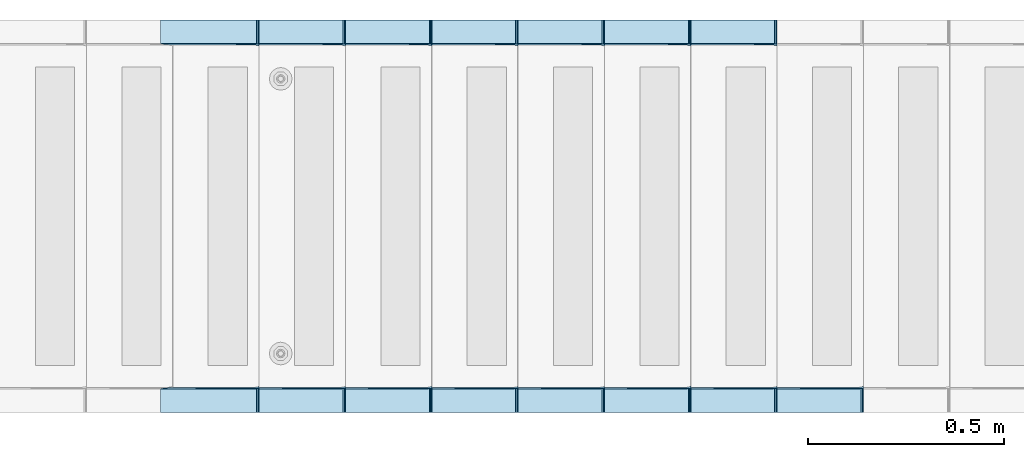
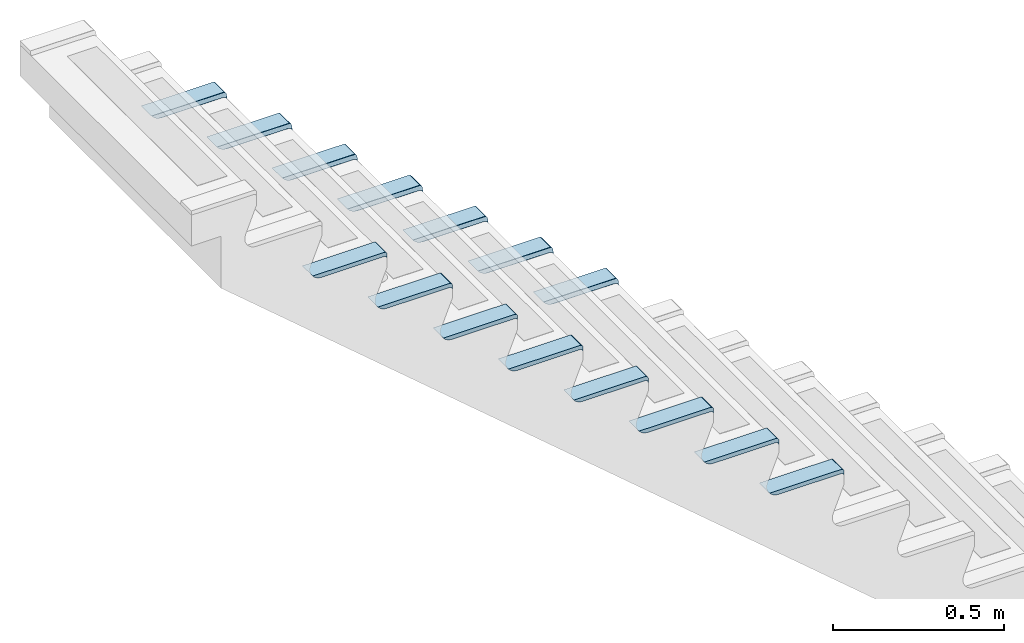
# One storey, part 3 of 4: 15 slabs, 1 element without a shape of its own.
"""IFC2X3 building model written with IfcOpenShell, lengths in millimetres."""

from ifc_helpers import new_model, si_unit, frame, origin_with_axes, place, context, subcontext, project, spatial, faceted_brep, material, type_object, element, aggregate, save


model = new_model("IFC2X3")

# Units and contexts
model_context = context("Model", 3, precision=1e-05, world=origin_with_axes())
body_context = subcontext(model_context, "Body", "Model", "MODEL_VIEW")
ifc_project = project(units=[si_unit("LENGTHUNIT", "METRE", prefix="MILLI"), si_unit("AREAUNIT", "SQUARE_METRE"), si_unit("VOLUMEUNIT", "CUBIC_METRE"), si_unit("MASSUNIT", "GRAM", prefix="KILO"), si_unit("TIMEUNIT", "SECOND"), si_unit("PLANEANGLEUNIT", "RADIAN"), si_unit("SOLIDANGLEUNIT", "STERADIAN"), si_unit("THERMODYNAMICTEMPERATUREUNIT", "DEGREE_CELSIUS"), si_unit("LUMINOUSINTENSITYUNIT", "LUMEN")], contexts=[model_context])

# Site, building, storey
site_placement = place(None, origin_with_axes())
site = spatial("IfcSite", under=ifc_project, at=site_placement, Name="Undefined", CompositionType="ELEMENT")
building_placement = place(site_placement, origin_with_axes())
building = spatial("IfcBuilding", under=site, at=building_placement, Name="Undefined", CompositionType="ELEMENT")
storey_placement = place(building_placement, origin_with_axes())
storey = spatial("IfcBuildingStorey", under=building, at=storey_placement, Name="Undefined", CompositionType="ELEMENT", Elevation=0.0)

# Assembly, slabs
assembly_placement = place(storey_placement, origin_with_axes())
assembly = element("IfcElementAssembly", 1, at=assembly_placement, inside=storey, Name="Trap met bomen", AssemblyPlace="NOTDEFINED", PredefinedType="REINFORCEMENT_UNIT")
ifc_material = material(Name="CONCRETE/C55/67")
slab_type = type_object("IfcSlabType", Name="60*25", PredefinedType="NOTDEFINED")
slab_1_placement = place(assembly_placement, frame((5140.0, 11530.0, 2640.0), z_axis=(0.0, -1.0, 0.0), x_axis=(-1.0, 0.0, 0.0)))
slab_1 = element("IfcSlab", 2, at=slab_1_placement, type_object=slab_type, material=ifc_material, Name="Ridge", ObjectType="60*25", PredefinedType="FLOOR", context=body_context, shape_type="Brep", body=[
    faceted_brep([(10.0, 0.0, -30.0), (6.17316567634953, 0.761204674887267, -30.6698729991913), (251.224989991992, 0.0, -30.0), (2.92893218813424, 2.9289321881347, -31.3397459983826), (0.761204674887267, 6.17316567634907, -32.0096189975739), (244.894224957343, 6.30938459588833, -31.648201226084), (0.0, 10.0, -32.6794919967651), (237.320508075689, 11.0555127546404, -32.467074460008), (228.881989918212, 14.0014135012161, -33.2859476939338), (220.0, 15.0, -34.0192379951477), (10.0, 15.0, -34.0192379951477), (6.17316567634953, 15.7612046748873, -34.689110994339), (2.92893218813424, 17.9289321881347, -35.3589839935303), (0.761204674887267, 21.1731656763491, -36.0288569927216), (0.0, 10.0, 30.0), (0.0, 25.0, 30.0), (0.0, 25.0, -36.6987299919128), (0.761204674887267, 21.1731656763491, 30.0), (2.92893218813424, 17.9289321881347, 30.0), (6.17316567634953, 15.7612046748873, 30.0), (10.0, 15.0, 30.0), (220.0, 15.0, 30.0), (228.881989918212, 14.0014135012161, 30.0), (237.320508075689, 11.0555127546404, 30.0), (244.894224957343, 6.30938459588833, 30.0), (251.224989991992, 0.0, 30.0), (10.0, 0.0, 30.0), (6.17316567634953, 0.761204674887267, 30.0), (2.92893218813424, 2.9289321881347, 30.0), (0.761204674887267, 6.17316567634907, 30.0)], [[[0, 1, 2]], [[3, 2, 1]], [[4, 2, 3]], [[5, 2, 4]], [[6, 5, 4]], [[7, 5, 6]], [[8, 7, 6]], [[9, 8, 6]], [[10, 9, 6]], [[11, 10, 6]], [[12, 11, 6]], [[13, 12, 6]], [[14, 15, 16, 6]], [[15, 17, 13, 16]], [[17, 18, 12, 13]], [[18, 19, 11, 12]], [[19, 20, 10, 11]], [[20, 21, 9, 10]], [[21, 22, 8, 9]], [[22, 23, 7, 8]], [[23, 24, 5, 7]], [[24, 25, 2, 5]], [[25, 26, 0, 2]], [[26, 27, 1, 0]], [[27, 28, 3, 1]], [[28, 29, 4, 3]], [[29, 14, 6, 4]], [[16, 13, 6]], [[29, 28, 27, 26, 25, 24, 23, 22, 21, 20, 19, 18, 17, 15, 14]]]),
])
slab_2_placement = place(assembly_placement, frame((5140.0, 12470.0, 2640.0), z_axis=(0.0, -1.0, 0.0), x_axis=(-1.0, 0.0, 0.0)))
slab_2 = element("IfcSlab", 3, at=slab_2_placement, type_object=slab_type, material=ifc_material, Name="Ridge", ObjectType="60*25", PredefinedType="FLOOR", context=body_context, shape_type="Brep", body=[
    faceted_brep([(220.0, 15.0, 34.0192379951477), (10.0, 15.0, 34.0192379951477), (228.881989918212, 14.0014135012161, 33.2859476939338), (0.0, 25.0, 36.6987299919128), (0.0, 10.0, 32.6794919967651), (0.761204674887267, 21.1731656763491, 36.0288569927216), (2.92893218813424, 17.9289321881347, 35.3589839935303), (6.17316567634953, 15.7612046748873, 34.689110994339), (237.320508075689, 11.0555127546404, 32.467074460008), (244.894224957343, 6.30938459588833, 31.648201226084), (2.92893218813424, 2.9289321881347, 31.3397459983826), (0.761204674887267, 6.17316567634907, 32.0096189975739), (6.17316567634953, 0.761204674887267, 30.6698729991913), (251.224989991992, 0.0, 30.0), (10.0, 0.0, 30.0), (0.0, 25.0, -30.0), (0.0, 10.0, -30.0), (0.761204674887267, 21.1731656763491, -30.0), (2.92893218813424, 17.9289321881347, -30.0), (6.17316567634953, 15.7612046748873, -30.0), (10.0, 15.0, -30.0), (220.0, 15.0, -30.0), (228.881989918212, 14.0014135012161, -30.0), (237.320508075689, 11.0555127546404, -30.0), (244.894224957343, 6.30938459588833, -30.0), (251.224989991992, 0.0, -30.0), (10.0, 0.0, -30.0), (6.17316567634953, 0.761204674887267, -30.0), (2.92893218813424, 2.9289321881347, -30.0), (0.761204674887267, 6.17316567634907, -30.0)], [[[0, 1, 2]], [[3, 4, 5]], [[6, 5, 4]], [[7, 6, 4]], [[7, 4, 1]], [[8, 2, 1]], [[8, 1, 4]], [[9, 8, 4]], [[10, 9, 11]], [[12, 9, 10]], [[13, 9, 12]], [[14, 13, 12]], [[4, 3, 15, 16]], [[3, 5, 17, 15]], [[5, 6, 18, 17]], [[6, 7, 19, 18]], [[7, 1, 20, 19]], [[1, 0, 21, 20]], [[0, 2, 22, 21]], [[2, 8, 23, 22]], [[8, 9, 24, 23]], [[9, 13, 25, 24]], [[13, 14, 26, 25]], [[14, 12, 27, 26]], [[12, 10, 28, 27]], [[10, 11, 29, 28]], [[11, 4, 16, 29]], [[17, 18, 19, 20, 21, 22, 23, 24, 25, 26, 27, 28, 29, 16, 15]], [[11, 9, 4]]]),
])
slab_3_placement = place(assembly_placement, frame((5360.0, 11530.0, 2452.5), z_axis=(0.0, -1.0, 0.0), x_axis=(-1.0, 0.0, 0.0)))
slab_3 = element("IfcSlab", 4, at=slab_3_placement, type_object=slab_type, material=ifc_material, Name="Ridge", ObjectType="60*25", PredefinedType="FLOOR", context=body_context, shape_type="Brep", body=[
    faceted_brep([(10.0, 0.0, -30.0), (6.17316567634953, 0.761204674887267, -30.6698729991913), (251.224989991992, 0.0, -30.0), (2.92893218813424, 2.9289321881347, -31.3397459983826), (0.761204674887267, 6.17316567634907, -32.0096189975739), (244.894224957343, 6.30938459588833, -31.648201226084), (0.0, 10.0, -32.6794919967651), (237.320508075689, 11.0555127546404, -32.467074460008), (228.881989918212, 14.0014135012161, -33.2859476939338), (220.0, 15.0, -34.0192379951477), (10.0, 15.0, -34.0192379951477), (6.17316567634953, 15.7612046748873, -34.689110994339), (2.92893218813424, 17.9289321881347, -35.3589839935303), (0.761204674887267, 21.1731656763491, -36.0288569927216), (0.0, 10.0, 30.0), (0.0, 25.0, 30.0), (0.0, 25.0, -36.6987299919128), (0.761204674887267, 21.1731656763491, 30.0), (2.92893218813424, 17.9289321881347, 30.0), (6.17316567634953, 15.7612046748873, 30.0), (10.0, 15.0, 30.0), (220.0, 15.0, 30.0), (228.881989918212, 14.0014135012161, 30.0), (237.320508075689, 11.0555127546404, 30.0), (244.894224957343, 6.30938459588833, 30.0), (251.224989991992, 0.0, 30.0), (10.0, 0.0, 30.0), (6.17316567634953, 0.761204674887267, 30.0), (2.92893218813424, 2.9289321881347, 30.0), (0.761204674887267, 6.17316567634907, 30.0)], [[[0, 1, 2]], [[3, 2, 1]], [[4, 2, 3]], [[5, 2, 4]], [[6, 5, 4]], [[7, 5, 6]], [[8, 7, 6]], [[9, 8, 6]], [[10, 9, 6]], [[11, 10, 6]], [[12, 11, 6]], [[13, 12, 6]], [[14, 15, 16, 6]], [[15, 17, 13, 16]], [[17, 18, 12, 13]], [[18, 19, 11, 12]], [[19, 20, 10, 11]], [[20, 21, 9, 10]], [[21, 22, 8, 9]], [[22, 23, 7, 8]], [[23, 24, 5, 7]], [[24, 25, 2, 5]], [[25, 26, 0, 2]], [[26, 27, 1, 0]], [[27, 28, 3, 1]], [[28, 29, 4, 3]], [[29, 14, 6, 4]], [[16, 13, 6]], [[29, 28, 27, 26, 25, 24, 23, 22, 21, 20, 19, 18, 17, 15, 14]]]),
])
slab_4_placement = place(assembly_placement, frame((5360.0, 12470.0, 2452.5), z_axis=(0.0, -1.0, 0.0), x_axis=(-1.0, 0.0, 0.0)))
slab_4 = element("IfcSlab", 5, at=slab_4_placement, type_object=slab_type, material=ifc_material, Name="Ridge", ObjectType="60*25", PredefinedType="FLOOR", context=body_context, shape_type="Brep", body=[
    faceted_brep([(220.0, 15.0, 34.0192379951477), (10.0, 15.0, 34.0192379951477), (228.881989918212, 14.0014135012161, 33.2859476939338), (0.0, 25.0, 36.6987299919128), (0.0, 10.0, 32.6794919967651), (0.761204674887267, 21.1731656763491, 36.0288569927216), (2.92893218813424, 17.9289321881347, 35.3589839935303), (6.17316567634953, 15.7612046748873, 34.689110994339), (237.320508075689, 11.0555127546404, 32.467074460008), (244.894224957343, 6.30938459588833, 31.648201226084), (2.92893218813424, 2.9289321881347, 31.3397459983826), (0.761204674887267, 6.17316567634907, 32.0096189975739), (6.17316567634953, 0.761204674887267, 30.6698729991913), (251.224989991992, 0.0, 30.0), (10.0, 0.0, 30.0), (0.0, 25.0, -30.0), (0.0, 10.0, -30.0), (0.761204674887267, 21.1731656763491, -30.0), (2.92893218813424, 17.9289321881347, -30.0), (6.17316567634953, 15.7612046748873, -30.0), (10.0, 15.0, -30.0), (220.0, 15.0, -30.0), (228.881989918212, 14.0014135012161, -30.0), (237.320508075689, 11.0555127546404, -30.0), (244.894224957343, 6.30938459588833, -30.0), (251.224989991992, 0.0, -30.0), (10.0, 0.0, -30.0), (6.17316567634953, 0.761204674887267, -30.0), (2.92893218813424, 2.9289321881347, -30.0), (0.761204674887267, 6.17316567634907, -30.0)], [[[0, 1, 2]], [[3, 4, 5]], [[6, 5, 4]], [[7, 6, 4]], [[7, 4, 1]], [[8, 2, 1]], [[8, 1, 4]], [[9, 8, 4]], [[10, 9, 11]], [[12, 9, 10]], [[13, 9, 12]], [[14, 13, 12]], [[4, 3, 15, 16]], [[3, 5, 17, 15]], [[5, 6, 18, 17]], [[6, 7, 19, 18]], [[7, 1, 20, 19]], [[1, 0, 21, 20]], [[0, 2, 22, 21]], [[2, 8, 23, 22]], [[8, 9, 24, 23]], [[9, 13, 25, 24]], [[13, 14, 26, 25]], [[14, 12, 27, 26]], [[12, 10, 28, 27]], [[10, 11, 29, 28]], [[11, 4, 16, 29]], [[17, 18, 19, 20, 21, 22, 23, 24, 25, 26, 27, 28, 29, 16, 15]], [[11, 9, 4]]]),
])
slab_5_placement = place(assembly_placement, frame((5580.0, 11530.0, 2265.0), z_axis=(0.0, -1.0, 0.0), x_axis=(-1.0, 0.0, 0.0)))
slab_5 = element("IfcSlab", 6, at=slab_5_placement, type_object=slab_type, material=ifc_material, Name="Ridge", ObjectType="60*25", PredefinedType="FLOOR", context=body_context, shape_type="Brep", body=[
    faceted_brep([(10.0, 0.0, -30.0), (6.17316567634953, 0.761204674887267, -30.6698729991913), (251.224989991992, 0.0, -30.0), (2.92893218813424, 2.9289321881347, -31.3397459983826), (0.761204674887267, 6.17316567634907, -32.0096189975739), (244.894224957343, 6.30938459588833, -31.648201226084), (0.0, 10.0, -32.6794919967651), (237.320508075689, 11.0555127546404, -32.467074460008), (228.881989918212, 14.0014135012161, -33.2859476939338), (220.0, 15.0, -34.0192379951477), (10.0, 15.0, -34.0192379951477), (6.17316567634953, 15.7612046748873, -34.689110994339), (2.92893218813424, 17.9289321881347, -35.3589839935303), (0.761204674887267, 21.1731656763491, -36.0288569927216), (0.0, 10.0, 30.0), (0.0, 25.0, 30.0), (0.0, 25.0, -36.6987299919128), (0.761204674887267, 21.1731656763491, 30.0), (2.92893218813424, 17.9289321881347, 30.0), (6.17316567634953, 15.7612046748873, 30.0), (10.0, 15.0, 30.0), (220.0, 15.0, 30.0), (228.881989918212, 14.0014135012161, 30.0), (237.320508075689, 11.0555127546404, 30.0), (244.894224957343, 6.30938459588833, 30.0), (251.224989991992, 0.0, 30.0), (10.0, 0.0, 30.0), (6.17316567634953, 0.761204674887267, 30.0), (2.92893218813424, 2.9289321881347, 30.0), (0.761204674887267, 6.17316567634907, 30.0)], [[[0, 1, 2]], [[3, 2, 1]], [[4, 2, 3]], [[5, 2, 4]], [[6, 5, 4]], [[7, 5, 6]], [[8, 7, 6]], [[9, 8, 6]], [[10, 9, 6]], [[11, 10, 6]], [[12, 11, 6]], [[13, 12, 6]], [[14, 15, 16, 6]], [[15, 17, 13, 16]], [[17, 18, 12, 13]], [[18, 19, 11, 12]], [[19, 20, 10, 11]], [[20, 21, 9, 10]], [[21, 22, 8, 9]], [[22, 23, 7, 8]], [[23, 24, 5, 7]], [[24, 25, 2, 5]], [[25, 26, 0, 2]], [[26, 27, 1, 0]], [[27, 28, 3, 1]], [[28, 29, 4, 3]], [[29, 14, 6, 4]], [[16, 13, 6]], [[29, 28, 27, 26, 25, 24, 23, 22, 21, 20, 19, 18, 17, 15, 14]]]),
])
slab_6_placement = place(assembly_placement, frame((5580.0, 12470.0, 2265.0), z_axis=(0.0, -1.0, 0.0), x_axis=(-1.0, 0.0, 0.0)))
slab_6 = element("IfcSlab", 7, at=slab_6_placement, type_object=slab_type, material=ifc_material, Name="Ridge", ObjectType="60*25", PredefinedType="FLOOR", context=body_context, shape_type="Brep", body=[
    faceted_brep([(220.0, 15.0, 34.0192379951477), (10.0, 15.0, 34.0192379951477), (228.881989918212, 14.0014135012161, 33.2859476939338), (0.0, 25.0, 36.6987299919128), (0.0, 10.0, 32.6794919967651), (0.761204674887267, 21.1731656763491, 36.0288569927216), (2.92893218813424, 17.9289321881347, 35.3589839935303), (6.17316567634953, 15.7612046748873, 34.689110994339), (237.320508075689, 11.0555127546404, 32.467074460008), (244.894224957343, 6.30938459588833, 31.648201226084), (2.92893218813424, 2.9289321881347, 31.3397459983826), (0.761204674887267, 6.17316567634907, 32.0096189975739), (6.17316567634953, 0.761204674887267, 30.6698729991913), (251.224989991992, 0.0, 30.0), (10.0, 0.0, 30.0), (0.0, 25.0, -30.0), (0.0, 10.0, -30.0), (0.761204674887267, 21.1731656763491, -30.0), (2.92893218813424, 17.9289321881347, -30.0), (6.17316567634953, 15.7612046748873, -30.0), (10.0, 15.0, -30.0), (220.0, 15.0, -30.0), (228.881989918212, 14.0014135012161, -30.0), (237.320508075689, 11.0555127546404, -30.0), (244.894224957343, 6.30938459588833, -30.0), (251.224989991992, 0.0, -30.0), (10.0, 0.0, -30.0), (6.17316567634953, 0.761204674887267, -30.0), (2.92893218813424, 2.9289321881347, -30.0), (0.761204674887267, 6.17316567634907, -30.0)], [[[0, 1, 2]], [[3, 4, 5]], [[6, 5, 4]], [[7, 6, 4]], [[7, 4, 1]], [[8, 2, 1]], [[8, 1, 4]], [[9, 8, 4]], [[10, 9, 11]], [[12, 9, 10]], [[13, 9, 12]], [[14, 13, 12]], [[4, 3, 15, 16]], [[3, 5, 17, 15]], [[5, 6, 18, 17]], [[6, 7, 19, 18]], [[7, 1, 20, 19]], [[1, 0, 21, 20]], [[0, 2, 22, 21]], [[2, 8, 23, 22]], [[8, 9, 24, 23]], [[9, 13, 25, 24]], [[13, 14, 26, 25]], [[14, 12, 27, 26]], [[12, 10, 28, 27]], [[10, 11, 29, 28]], [[11, 4, 16, 29]], [[17, 18, 19, 20, 21, 22, 23, 24, 25, 26, 27, 28, 29, 16, 15]], [[11, 9, 4]]]),
])
slab_7_placement = place(assembly_placement, frame((5800.0, 11530.0, 2077.5), z_axis=(0.0, -1.0, 0.0), x_axis=(-1.0, 0.0, 0.0)))
slab_7 = element("IfcSlab", 8, at=slab_7_placement, type_object=slab_type, material=ifc_material, Name="Ridge", ObjectType="60*25", PredefinedType="FLOOR", context=body_context, shape_type="Brep", body=[
    faceted_brep([(10.0, 0.0, -30.0), (6.17316567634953, 0.761204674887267, -30.6698729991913), (251.224989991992, 0.0, -30.0), (2.92893218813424, 2.9289321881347, -31.3397459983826), (0.761204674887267, 6.17316567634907, -32.0096189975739), (244.894224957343, 6.30938459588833, -31.648201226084), (0.0, 10.0, -32.6794919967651), (237.320508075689, 11.0555127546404, -32.467074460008), (228.881989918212, 14.0014135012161, -33.2859476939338), (220.0, 15.0, -34.0192379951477), (10.0, 15.0, -34.0192379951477), (6.17316567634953, 15.7612046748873, -34.689110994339), (2.92893218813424, 17.9289321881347, -35.3589839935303), (0.761204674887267, 21.1731656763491, -36.0288569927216), (0.0, 10.0, 30.0), (0.0, 25.0, 30.0), (0.0, 25.0, -36.6987299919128), (0.761204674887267, 21.1731656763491, 30.0), (2.92893218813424, 17.9289321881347, 30.0), (6.17316567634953, 15.7612046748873, 30.0), (10.0, 15.0, 30.0), (220.0, 15.0, 30.0), (228.881989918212, 14.0014135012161, 30.0), (237.320508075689, 11.0555127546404, 30.0), (244.894224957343, 6.30938459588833, 30.0), (251.224989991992, 0.0, 30.0), (10.0, 0.0, 30.0), (6.17316567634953, 0.761204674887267, 30.0), (2.92893218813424, 2.9289321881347, 30.0), (0.761204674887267, 6.17316567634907, 30.0)], [[[0, 1, 2]], [[3, 2, 1]], [[4, 2, 3]], [[5, 2, 4]], [[6, 5, 4]], [[7, 5, 6]], [[8, 7, 6]], [[9, 8, 6]], [[10, 9, 6]], [[11, 10, 6]], [[12, 11, 6]], [[13, 12, 6]], [[14, 15, 16, 6]], [[15, 17, 13, 16]], [[17, 18, 12, 13]], [[18, 19, 11, 12]], [[19, 20, 10, 11]], [[20, 21, 9, 10]], [[21, 22, 8, 9]], [[22, 23, 7, 8]], [[23, 24, 5, 7]], [[24, 25, 2, 5]], [[25, 26, 0, 2]], [[26, 27, 1, 0]], [[27, 28, 3, 1]], [[28, 29, 4, 3]], [[29, 14, 6, 4]], [[16, 13, 6]], [[29, 28, 27, 26, 25, 24, 23, 22, 21, 20, 19, 18, 17, 15, 14]]]),
])
slab_8_placement = place(assembly_placement, frame((5800.0, 12470.0, 2077.5), z_axis=(0.0, -1.0, 0.0), x_axis=(-1.0, 0.0, 0.0)))
slab_8 = element("IfcSlab", 9, at=slab_8_placement, type_object=slab_type, material=ifc_material, Name="Ridge", ObjectType="60*25", PredefinedType="FLOOR", context=body_context, shape_type="Brep", body=[
    faceted_brep([(220.0, 15.0, 34.0192379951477), (10.0, 15.0, 34.0192379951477), (228.881989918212, 14.0014135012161, 33.2859476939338), (0.0, 25.0, 36.6987299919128), (0.0, 10.0, 32.6794919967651), (0.761204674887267, 21.1731656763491, 36.0288569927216), (2.92893218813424, 17.9289321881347, 35.3589839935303), (6.17316567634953, 15.7612046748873, 34.689110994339), (237.320508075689, 11.0555127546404, 32.467074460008), (244.894224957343, 6.30938459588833, 31.648201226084), (2.92893218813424, 2.9289321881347, 31.3397459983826), (0.761204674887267, 6.17316567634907, 32.0096189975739), (6.17316567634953, 0.761204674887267, 30.6698729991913), (251.224989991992, 0.0, 30.0), (10.0, 0.0, 30.0), (0.0, 25.0, -30.0), (0.0, 10.0, -30.0), (0.761204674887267, 21.1731656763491, -30.0), (2.92893218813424, 17.9289321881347, -30.0), (6.17316567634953, 15.7612046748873, -30.0), (10.0, 15.0, -30.0), (220.0, 15.0, -30.0), (228.881989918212, 14.0014135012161, -30.0), (237.320508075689, 11.0555127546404, -30.0), (244.894224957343, 6.30938459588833, -30.0), (251.224989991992, 0.0, -30.0), (10.0, 0.0, -30.0), (6.17316567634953, 0.761204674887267, -30.0), (2.92893218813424, 2.9289321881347, -30.0), (0.761204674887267, 6.17316567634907, -30.0)], [[[0, 1, 2]], [[3, 4, 5]], [[6, 5, 4]], [[7, 6, 4]], [[7, 4, 1]], [[8, 2, 1]], [[8, 1, 4]], [[9, 8, 4]], [[10, 9, 11]], [[12, 9, 10]], [[13, 9, 12]], [[14, 13, 12]], [[4, 3, 15, 16]], [[3, 5, 17, 15]], [[5, 6, 18, 17]], [[6, 7, 19, 18]], [[7, 1, 20, 19]], [[1, 0, 21, 20]], [[0, 2, 22, 21]], [[2, 8, 23, 22]], [[8, 9, 24, 23]], [[9, 13, 25, 24]], [[13, 14, 26, 25]], [[14, 12, 27, 26]], [[12, 10, 28, 27]], [[10, 11, 29, 28]], [[11, 4, 16, 29]], [[17, 18, 19, 20, 21, 22, 23, 24, 25, 26, 27, 28, 29, 16, 15]], [[11, 9, 4]]]),
])
slab_9_placement = place(assembly_placement, frame((6020.0, 11530.0, 1890.0), z_axis=(0.0, -1.0, 0.0), x_axis=(-1.0, 0.0, 0.0)))
slab_9 = element("IfcSlab", 10, at=slab_9_placement, type_object=slab_type, material=ifc_material, Name="Ridge", ObjectType="60*25", PredefinedType="FLOOR", context=body_context, shape_type="Brep", body=[
    faceted_brep([(10.0, 0.0, -30.0), (6.17316567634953, 0.761204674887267, -30.6698729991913), (251.224989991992, 0.0, -30.0), (2.92893218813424, 2.9289321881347, -31.3397459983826), (0.761204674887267, 6.17316567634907, -32.0096189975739), (244.894224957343, 6.30938459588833, -31.648201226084), (0.0, 10.0, -32.6794919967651), (237.320508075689, 11.0555127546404, -32.467074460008), (228.881989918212, 14.0014135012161, -33.2859476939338), (220.0, 15.0, -34.0192379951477), (10.0, 15.0, -34.0192379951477), (6.17316567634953, 15.7612046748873, -34.689110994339), (2.92893218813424, 17.9289321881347, -35.3589839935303), (0.761204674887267, 21.1731656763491, -36.0288569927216), (0.0, 10.0, 30.0), (0.0, 25.0, 30.0), (0.0, 25.0, -36.6987299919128), (0.761204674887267, 21.1731656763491, 30.0), (2.92893218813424, 17.9289321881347, 30.0), (6.17316567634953, 15.7612046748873, 30.0), (10.0, 15.0, 30.0), (220.0, 15.0, 30.0), (228.881989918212, 14.0014135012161, 30.0), (237.320508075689, 11.0555127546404, 30.0), (244.894224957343, 6.30938459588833, 30.0), (251.224989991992, 0.0, 30.0), (10.0, 0.0, 30.0), (6.17316567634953, 0.761204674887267, 30.0), (2.92893218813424, 2.9289321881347, 30.0), (0.761204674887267, 6.17316567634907, 30.0)], [[[0, 1, 2]], [[3, 2, 1]], [[4, 2, 3]], [[5, 2, 4]], [[6, 5, 4]], [[7, 5, 6]], [[8, 7, 6]], [[9, 8, 6]], [[10, 9, 6]], [[11, 10, 6]], [[12, 11, 6]], [[13, 12, 6]], [[14, 15, 16, 6]], [[15, 17, 13, 16]], [[17, 18, 12, 13]], [[18, 19, 11, 12]], [[19, 20, 10, 11]], [[20, 21, 9, 10]], [[21, 22, 8, 9]], [[22, 23, 7, 8]], [[23, 24, 5, 7]], [[24, 25, 2, 5]], [[25, 26, 0, 2]], [[26, 27, 1, 0]], [[27, 28, 3, 1]], [[28, 29, 4, 3]], [[29, 14, 6, 4]], [[16, 13, 6]], [[29, 28, 27, 26, 25, 24, 23, 22, 21, 20, 19, 18, 17, 15, 14]]]),
])
slab_10_placement = place(assembly_placement, frame((6020.0, 12470.0, 1890.0), z_axis=(0.0, -1.0, 0.0), x_axis=(-1.0, 0.0, 0.0)))
slab_10 = element("IfcSlab", 11, at=slab_10_placement, type_object=slab_type, material=ifc_material, Name="Ridge", ObjectType="60*25", PredefinedType="FLOOR", context=body_context, shape_type="Brep", body=[
    faceted_brep([(220.0, 15.0, 34.0192379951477), (10.0, 15.0, 34.0192379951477), (228.881989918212, 14.0014135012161, 33.2859476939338), (0.0, 25.0, 36.6987299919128), (0.0, 10.0, 32.6794919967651), (0.761204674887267, 21.1731656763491, 36.0288569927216), (2.92893218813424, 17.9289321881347, 35.3589839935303), (6.17316567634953, 15.7612046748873, 34.689110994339), (237.320508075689, 11.0555127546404, 32.467074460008), (244.894224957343, 6.30938459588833, 31.648201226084), (2.92893218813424, 2.9289321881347, 31.3397459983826), (0.761204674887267, 6.17316567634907, 32.0096189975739), (6.17316567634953, 0.761204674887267, 30.6698729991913), (251.224989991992, 0.0, 30.0), (10.0, 0.0, 30.0), (0.0, 25.0, -30.0), (0.0, 10.0, -30.0), (0.761204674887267, 21.1731656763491, -30.0), (2.92893218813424, 17.9289321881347, -30.0), (6.17316567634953, 15.7612046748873, -30.0), (10.0, 15.0, -30.0), (220.0, 15.0, -30.0), (228.881989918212, 14.0014135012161, -30.0), (237.320508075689, 11.0555127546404, -30.0), (244.894224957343, 6.30938459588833, -30.0), (251.224989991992, 0.0, -30.0), (10.0, 0.0, -30.0), (6.17316567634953, 0.761204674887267, -30.0), (2.92893218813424, 2.9289321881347, -30.0), (0.761204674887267, 6.17316567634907, -30.0)], [[[0, 1, 2]], [[3, 4, 5]], [[6, 5, 4]], [[7, 6, 4]], [[7, 4, 1]], [[8, 2, 1]], [[8, 1, 4]], [[9, 8, 4]], [[10, 9, 11]], [[12, 9, 10]], [[13, 9, 12]], [[14, 13, 12]], [[4, 3, 15, 16]], [[3, 5, 17, 15]], [[5, 6, 18, 17]], [[6, 7, 19, 18]], [[7, 1, 20, 19]], [[1, 0, 21, 20]], [[0, 2, 22, 21]], [[2, 8, 23, 22]], [[8, 9, 24, 23]], [[9, 13, 25, 24]], [[13, 14, 26, 25]], [[14, 12, 27, 26]], [[12, 10, 28, 27]], [[10, 11, 29, 28]], [[11, 4, 16, 29]], [[17, 18, 19, 20, 21, 22, 23, 24, 25, 26, 27, 28, 29, 16, 15]], [[11, 9, 4]]]),
])
slab_11_placement = place(assembly_placement, frame((6240.0, 11530.0, 1702.5), z_axis=(0.0, -1.0, 0.0), x_axis=(-1.0, 0.0, 0.0)))
slab_11 = element("IfcSlab", 12, at=slab_11_placement, type_object=slab_type, material=ifc_material, Name="Ridge", ObjectType="60*25", PredefinedType="FLOOR", context=body_context, shape_type="Brep", body=[
    faceted_brep([(10.0, 0.0, -30.0), (6.17316567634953, 0.761204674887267, -30.6698729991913), (251.224989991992, 0.0, -30.0), (2.92893218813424, 2.9289321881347, -31.3397459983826), (0.761204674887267, 6.17316567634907, -32.0096189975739), (244.894224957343, 6.30938459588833, -31.648201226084), (0.0, 10.0, -32.6794919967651), (237.320508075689, 11.0555127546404, -32.467074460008), (228.881989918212, 14.0014135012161, -33.2859476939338), (220.0, 15.0, -34.0192379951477), (10.0, 15.0, -34.0192379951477), (6.17316567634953, 15.7612046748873, -34.689110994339), (2.92893218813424, 17.9289321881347, -35.3589839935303), (0.761204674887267, 21.1731656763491, -36.0288569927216), (0.0, 10.0, 30.0), (0.0, 25.0, 30.0), (0.0, 25.0, -36.6987299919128), (0.761204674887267, 21.1731656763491, 30.0), (2.92893218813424, 17.9289321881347, 30.0), (6.17316567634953, 15.7612046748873, 30.0), (10.0, 15.0, 30.0), (220.0, 15.0, 30.0), (228.881989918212, 14.0014135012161, 30.0), (237.320508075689, 11.0555127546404, 30.0), (244.894224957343, 6.30938459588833, 30.0), (251.224989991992, 0.0, 30.0), (10.0, 0.0, 30.0), (6.17316567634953, 0.761204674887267, 30.0), (2.92893218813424, 2.9289321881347, 30.0), (0.761204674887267, 6.17316567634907, 30.0)], [[[0, 1, 2]], [[3, 2, 1]], [[4, 2, 3]], [[5, 2, 4]], [[6, 5, 4]], [[7, 5, 6]], [[8, 7, 6]], [[9, 8, 6]], [[10, 9, 6]], [[11, 10, 6]], [[12, 11, 6]], [[13, 12, 6]], [[14, 15, 16, 6]], [[15, 17, 13, 16]], [[17, 18, 12, 13]], [[18, 19, 11, 12]], [[19, 20, 10, 11]], [[20, 21, 9, 10]], [[21, 22, 8, 9]], [[22, 23, 7, 8]], [[23, 24, 5, 7]], [[24, 25, 2, 5]], [[25, 26, 0, 2]], [[26, 27, 1, 0]], [[27, 28, 3, 1]], [[28, 29, 4, 3]], [[29, 14, 6, 4]], [[16, 13, 6]], [[29, 28, 27, 26, 25, 24, 23, 22, 21, 20, 19, 18, 17, 15, 14]]]),
])
slab_12_placement = place(assembly_placement, frame((6240.0, 12470.0, 1702.5), z_axis=(0.0, -1.0, 0.0), x_axis=(-1.0, 0.0, 0.0)))
slab_12 = element("IfcSlab", 13, at=slab_12_placement, type_object=slab_type, material=ifc_material, Name="Ridge", ObjectType="60*25", PredefinedType="FLOOR", context=body_context, shape_type="Brep", body=[
    faceted_brep([(220.0, 15.0, 34.0192379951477), (10.0, 15.0, 34.0192379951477), (228.881989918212, 14.0014135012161, 33.2859476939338), (0.0, 25.0, 36.6987299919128), (0.0, 10.0, 32.6794919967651), (0.761204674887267, 21.1731656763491, 36.0288569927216), (2.92893218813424, 17.9289321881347, 35.3589839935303), (6.17316567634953, 15.7612046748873, 34.689110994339), (237.320508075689, 11.0555127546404, 32.467074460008), (244.894224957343, 6.30938459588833, 31.648201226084), (2.92893218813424, 2.9289321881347, 31.3397459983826), (0.761204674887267, 6.17316567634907, 32.0096189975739), (6.17316567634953, 0.761204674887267, 30.6698729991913), (251.224989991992, 0.0, 30.0), (10.0, 0.0, 30.0), (0.0, 25.0, -30.0), (0.0, 10.0, -30.0), (0.761204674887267, 21.1731656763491, -30.0), (2.92893218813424, 17.9289321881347, -30.0), (6.17316567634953, 15.7612046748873, -30.0), (10.0, 15.0, -30.0), (220.0, 15.0, -30.0), (228.881989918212, 14.0014135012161, -30.0), (237.320508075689, 11.0555127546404, -30.0), (244.894224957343, 6.30938459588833, -30.0), (251.224989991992, 0.0, -30.0), (10.0, 0.0, -30.0), (6.17316567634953, 0.761204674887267, -30.0), (2.92893218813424, 2.9289321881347, -30.0), (0.761204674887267, 6.17316567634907, -30.0)], [[[0, 1, 2]], [[3, 4, 5]], [[6, 5, 4]], [[7, 6, 4]], [[7, 4, 1]], [[8, 2, 1]], [[8, 1, 4]], [[9, 8, 4]], [[10, 9, 11]], [[12, 9, 10]], [[13, 9, 12]], [[14, 13, 12]], [[4, 3, 15, 16]], [[3, 5, 17, 15]], [[5, 6, 18, 17]], [[6, 7, 19, 18]], [[7, 1, 20, 19]], [[1, 0, 21, 20]], [[0, 2, 22, 21]], [[2, 8, 23, 22]], [[8, 9, 24, 23]], [[9, 13, 25, 24]], [[13, 14, 26, 25]], [[14, 12, 27, 26]], [[12, 10, 28, 27]], [[10, 11, 29, 28]], [[11, 4, 16, 29]], [[17, 18, 19, 20, 21, 22, 23, 24, 25, 26, 27, 28, 29, 16, 15]], [[11, 9, 4]]]),
])
slab_13_placement = place(assembly_placement, frame((6460.0, 11530.0, 1515.0), z_axis=(0.0, -1.0, 0.0), x_axis=(-1.0, 0.0, 0.0)))
slab_13 = element("IfcSlab", 14, at=slab_13_placement, type_object=slab_type, material=ifc_material, Name="Ridge", ObjectType="60*25", PredefinedType="FLOOR", context=body_context, shape_type="Brep", body=[
    faceted_brep([(10.0, 0.0, -30.0), (6.17316567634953, 0.761204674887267, -30.6698729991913), (251.224989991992, 0.0, -30.0), (2.92893218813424, 2.9289321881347, -31.3397459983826), (0.761204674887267, 6.17316567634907, -32.0096189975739), (244.894224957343, 6.30938459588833, -31.648201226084), (0.0, 10.0, -32.6794919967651), (237.320508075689, 11.0555127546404, -32.467074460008), (228.881989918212, 14.0014135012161, -33.2859476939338), (220.0, 15.0, -34.0192379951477), (10.0, 15.0, -34.0192379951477), (6.17316567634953, 15.7612046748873, -34.689110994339), (2.92893218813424, 17.9289321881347, -35.3589839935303), (0.761204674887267, 21.1731656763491, -36.0288569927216), (0.0, 10.0, 30.0), (0.0, 25.0, 30.0), (0.0, 25.0, -36.6987299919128), (0.761204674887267, 21.1731656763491, 30.0), (2.92893218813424, 17.9289321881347, 30.0), (6.17316567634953, 15.7612046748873, 30.0), (10.0, 15.0, 30.0), (220.0, 15.0, 30.0), (228.881989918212, 14.0014135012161, 30.0), (237.320508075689, 11.0555127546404, 30.0), (244.894224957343, 6.30938459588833, 30.0), (251.224989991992, 0.0, 30.0), (10.0, 0.0, 30.0), (6.17316567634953, 0.761204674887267, 30.0), (2.92893218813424, 2.9289321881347, 30.0), (0.761204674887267, 6.17316567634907, 30.0)], [[[0, 1, 2]], [[3, 2, 1]], [[4, 2, 3]], [[5, 2, 4]], [[6, 5, 4]], [[7, 5, 6]], [[8, 7, 6]], [[9, 8, 6]], [[10, 9, 6]], [[11, 10, 6]], [[12, 11, 6]], [[13, 12, 6]], [[14, 15, 16, 6]], [[15, 17, 13, 16]], [[17, 18, 12, 13]], [[18, 19, 11, 12]], [[19, 20, 10, 11]], [[20, 21, 9, 10]], [[21, 22, 8, 9]], [[22, 23, 7, 8]], [[23, 24, 5, 7]], [[24, 25, 2, 5]], [[25, 26, 0, 2]], [[26, 27, 1, 0]], [[27, 28, 3, 1]], [[28, 29, 4, 3]], [[29, 14, 6, 4]], [[16, 13, 6]], [[29, 28, 27, 26, 25, 24, 23, 22, 21, 20, 19, 18, 17, 15, 14]]]),
])
slab_14_placement = place(assembly_placement, frame((6460.0, 12470.0, 1515.0), z_axis=(0.0, -1.0, 0.0), x_axis=(-1.0, 0.0, 0.0)))
slab_14 = element("IfcSlab", 15, at=slab_14_placement, type_object=slab_type, material=ifc_material, Name="Ridge", ObjectType="60*25", PredefinedType="FLOOR", context=body_context, shape_type="Brep", body=[
    faceted_brep([(220.0, 15.0, 34.0192379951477), (10.0, 15.0, 34.0192379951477), (228.881989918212, 14.0014135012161, 33.2859476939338), (0.0, 25.0, 36.6987299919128), (0.0, 10.0, 32.6794919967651), (0.761204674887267, 21.1731656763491, 36.0288569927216), (2.92893218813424, 17.9289321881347, 35.3589839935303), (6.17316567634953, 15.7612046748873, 34.689110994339), (237.320508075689, 11.0555127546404, 32.467074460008), (244.894224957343, 6.30938459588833, 31.648201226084), (2.92893218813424, 2.9289321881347, 31.3397459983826), (0.761204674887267, 6.17316567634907, 32.0096189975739), (6.17316567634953, 0.761204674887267, 30.6698729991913), (251.224989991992, 0.0, 30.0), (10.0, 0.0, 30.0), (0.0, 25.0, -30.0), (0.0, 10.0, -30.0), (0.761204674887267, 21.1731656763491, -30.0), (2.92893218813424, 17.9289321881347, -30.0), (6.17316567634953, 15.7612046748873, -30.0), (10.0, 15.0, -30.0), (220.0, 15.0, -30.0), (228.881989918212, 14.0014135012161, -30.0), (237.320508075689, 11.0555127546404, -30.0), (244.894224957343, 6.30938459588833, -30.0), (251.224989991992, 0.0, -30.0), (10.0, 0.0, -30.0), (6.17316567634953, 0.761204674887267, -30.0), (2.92893218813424, 2.9289321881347, -30.0), (0.761204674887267, 6.17316567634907, -30.0)], [[[0, 1, 2]], [[3, 4, 5]], [[6, 5, 4]], [[7, 6, 4]], [[7, 4, 1]], [[8, 2, 1]], [[8, 1, 4]], [[9, 8, 4]], [[10, 9, 11]], [[12, 9, 10]], [[13, 9, 12]], [[14, 13, 12]], [[4, 3, 15, 16]], [[3, 5, 17, 15]], [[5, 6, 18, 17]], [[6, 7, 19, 18]], [[7, 1, 20, 19]], [[1, 0, 21, 20]], [[0, 2, 22, 21]], [[2, 8, 23, 22]], [[8, 9, 24, 23]], [[9, 13, 25, 24]], [[13, 14, 26, 25]], [[14, 12, 27, 26]], [[12, 10, 28, 27]], [[10, 11, 29, 28]], [[11, 4, 16, 29]], [[17, 18, 19, 20, 21, 22, 23, 24, 25, 26, 27, 28, 29, 16, 15]], [[11, 9, 4]]]),
])
slab_15_placement = place(assembly_placement, frame((6680.0, 11530.0, 1327.5), z_axis=(0.0, -1.0, 0.0), x_axis=(-1.0, 0.0, 0.0)))
slab_15 = element("IfcSlab", 16, at=slab_15_placement, type_object=slab_type, material=ifc_material, Name="Ridge", ObjectType="60*25", PredefinedType="FLOOR", context=body_context, shape_type="Brep", body=[
    faceted_brep([(10.0, 0.0, -30.0), (6.17316567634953, 0.761204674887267, -30.6698729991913), (251.224989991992, 0.0, -30.0), (2.92893218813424, 2.9289321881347, -31.3397459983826), (0.761204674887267, 6.17316567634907, -32.0096189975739), (244.894224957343, 6.30938459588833, -31.648201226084), (0.0, 10.0, -32.6794919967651), (237.320508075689, 11.0555127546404, -32.467074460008), (228.881989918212, 14.0014135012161, -33.2859476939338), (220.0, 15.0, -34.0192379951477), (10.0, 15.0, -34.0192379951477), (6.17316567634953, 15.7612046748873, -34.689110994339), (2.92893218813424, 17.9289321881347, -35.3589839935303), (0.761204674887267, 21.1731656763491, -36.0288569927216), (0.0, 10.0, 30.0), (0.0, 25.0, 30.0), (0.0, 25.0, -36.6987299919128), (0.761204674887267, 21.1731656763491, 30.0), (2.92893218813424, 17.9289321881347, 30.0), (6.17316567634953, 15.7612046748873, 30.0), (10.0, 15.0, 30.0), (220.0, 15.0, 30.0), (228.881989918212, 14.0014135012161, 30.0), (237.320508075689, 11.0555127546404, 30.0), (244.894224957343, 6.30938459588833, 30.0), (251.224989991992, 0.0, 30.0), (10.0, 0.0, 30.0), (6.17316567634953, 0.761204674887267, 30.0), (2.92893218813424, 2.9289321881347, 30.0), (0.761204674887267, 6.17316567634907, 30.0)], [[[0, 1, 2]], [[3, 2, 1]], [[4, 2, 3]], [[5, 2, 4]], [[6, 5, 4]], [[7, 5, 6]], [[8, 7, 6]], [[9, 8, 6]], [[10, 9, 6]], [[11, 10, 6]], [[12, 11, 6]], [[13, 12, 6]], [[14, 15, 16, 6]], [[15, 17, 13, 16]], [[17, 18, 12, 13]], [[18, 19, 11, 12]], [[19, 20, 10, 11]], [[20, 21, 9, 10]], [[21, 22, 8, 9]], [[22, 23, 7, 8]], [[23, 24, 5, 7]], [[24, 25, 2, 5]], [[25, 26, 0, 2]], [[26, 27, 1, 0]], [[27, 28, 3, 1]], [[28, 29, 4, 3]], [[29, 14, 6, 4]], [[16, 13, 6]], [[29, 28, 27, 26, 25, 24, 23, 22, 21, 20, 19, 18, 17, 15, 14]]]),
])
aggregate(assembly, [slab_1, slab_2, slab_3, slab_4, slab_5, slab_6, slab_7, slab_8, slab_9, slab_10, slab_11, slab_12, slab_13, slab_14, slab_15])

save(model, "model.ifc")
